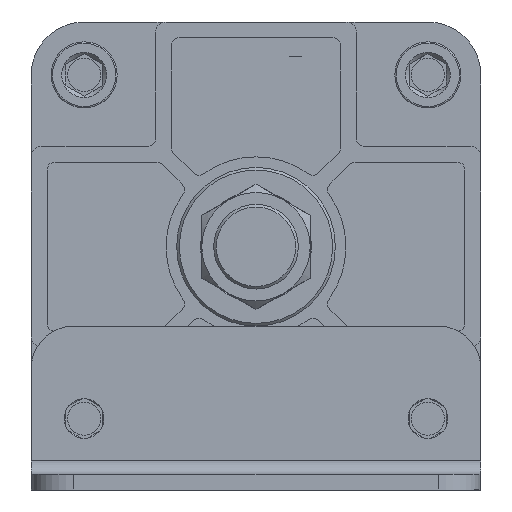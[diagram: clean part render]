
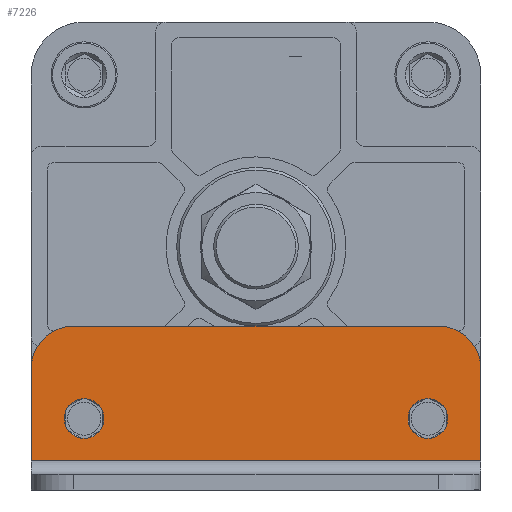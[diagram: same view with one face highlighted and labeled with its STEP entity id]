
A CAD part, front view. The second image highlights one B-rep face of the part: STEP entity #7226.
In plain terms, the highlighted planar face has unit normal (0, -1, 0).
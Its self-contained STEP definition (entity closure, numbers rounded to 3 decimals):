
#619=LINE('',#10921,#1033);
#626=LINE('',#10939,#1040);
#633=LINE('',#10970,#1047);
#635=LINE('',#10974,#1049);
#1033=VECTOR('',#9295,1000.);
#1040=VECTOR('',#9306,1000.);
#1047=VECTOR('',#9333,1000.);
#1049=VECTOR('',#9337,1000.);
#2363=ORIENTED_EDGE('',*,*,#3178,.F.);
#2364=ORIENTED_EDGE('',*,*,#3176,.F.);
#2365=ORIENTED_EDGE('',*,*,#3186,.F.);
#2366=ORIENTED_EDGE('',*,*,#3188,.T.);
#2367=ORIENTED_EDGE('',*,*,#3172,.F.);
#2368=ORIENTED_EDGE('',*,*,#3189,.T.);
#2369=ORIENTED_EDGE('',*,*,#3164,.F.);
#2370=ORIENTED_EDGE('',*,*,#3190,.T.);
#3164=EDGE_CURVE('',#3695,#3696,#619,.T.);
#3172=EDGE_CURVE('',#3703,#3704,#626,.T.);
#3176=EDGE_CURVE('',#3707,#3707,#4016,.T.);
#3178=EDGE_CURVE('',#3709,#3709,#4018,.T.);
#3186=EDGE_CURVE('',#3717,#3718,#633,.T.);
#3188=EDGE_CURVE('',#3717,#3704,#635,.F.);
#3189=EDGE_CURVE('',#3703,#3696,#4022,.F.);
#3190=EDGE_CURVE('',#3695,#3718,#4023,.F.);
#3695=VERTEX_POINT('',#10922);
#3696=VERTEX_POINT('',#10923);
#3703=VERTEX_POINT('',#10938);
#3704=VERTEX_POINT('',#10940);
#3707=VERTEX_POINT('',#10948);
#3709=VERTEX_POINT('',#10953);
#3717=VERTEX_POINT('',#10969);
#3718=VERTEX_POINT('',#10971);
#4016=CIRCLE('',#7817,7.5);
#4018=CIRCLE('',#7820,7.5);
#4022=CIRCLE('',#7826,16.);
#4023=CIRCLE('',#7827,16.);
#4389=EDGE_LOOP('',(#2363));
#4390=EDGE_LOOP('',(#2364));
#4391=EDGE_LOOP('',(#2365,#2366,#2367,#2368,#2369,#2370));
#4801=FACE_BOUND('',#4389,.T.);
#4802=FACE_BOUND('',#4390,.T.);
#4803=FACE_BOUND('',#4391,.T.);
#5010=PLANE('',#7825);
#7226=ADVANCED_FACE('',(#4801,#4802,#4803),#5010,.F.);
#7817=AXIS2_PLACEMENT_3D('',#10947,#9313,#9314);
#7820=AXIS2_PLACEMENT_3D('',#10952,#9319,#9320);
#7825=AXIS2_PLACEMENT_3D('',#10973,#9335,#9336);
#7826=AXIS2_PLACEMENT_3D('',#10975,#9338,#9339);
#7827=AXIS2_PLACEMENT_3D('',#10976,#9340,#9341);
#9295=DIRECTION('',(1.,0.,0.));
#9306=DIRECTION('',(0.,0.,-1.));
#9313=DIRECTION('',(0.,-1.,0.));
#9314=DIRECTION('',(1.,0.,0.));
#9319=DIRECTION('',(0.,-1.,0.));
#9320=DIRECTION('',(1.,0.,0.));
#9333=DIRECTION('',(0.,0.,1.));
#9335=DIRECTION('',(0.,1.,0.));
#9336=DIRECTION('',(0.,0.,1.));
#9337=DIRECTION('',(-1.,0.,0.));
#9338=DIRECTION('',(0.,1.,0.));
#9339=DIRECTION('',(0.,0.,1.));
#9340=DIRECTION('',(0.,1.,0.));
#9341=DIRECTION('',(0.,0.,1.));
#10921=CARTESIAN_POINT('',(0.,-6.,-30.));
#10922=CARTESIAN_POINT('',(-69.,-6.,-30.));
#10923=CARTESIAN_POINT('',(69.,-6.,-30.));
#10938=CARTESIAN_POINT('',(85.,-6.,-46.));
#10939=CARTESIAN_POINT('',(85.,-6.,-30.));
#10940=CARTESIAN_POINT('',(85.,-6.,-81.));
#10947=CARTESIAN_POINT('',(65.,-6.,-65.));
#10948=CARTESIAN_POINT('',(72.5,-6.,-65.));
#10952=CARTESIAN_POINT('',(-65.,-6.,-65.));
#10953=CARTESIAN_POINT('',(-57.5,-6.,-65.));
#10969=CARTESIAN_POINT('',(-85.,-6.,-81.));
#10970=CARTESIAN_POINT('',(-85.,-6.,-86.));
#10971=CARTESIAN_POINT('',(-85.,-6.,-46.));
#10973=CARTESIAN_POINT('',(0.,-6.,0.));
#10974=CARTESIAN_POINT('',(85.,-6.,-81.));
#10975=CARTESIAN_POINT('',(69.,-6.,-46.));
#10976=CARTESIAN_POINT('',(-69.,-6.,-46.));
